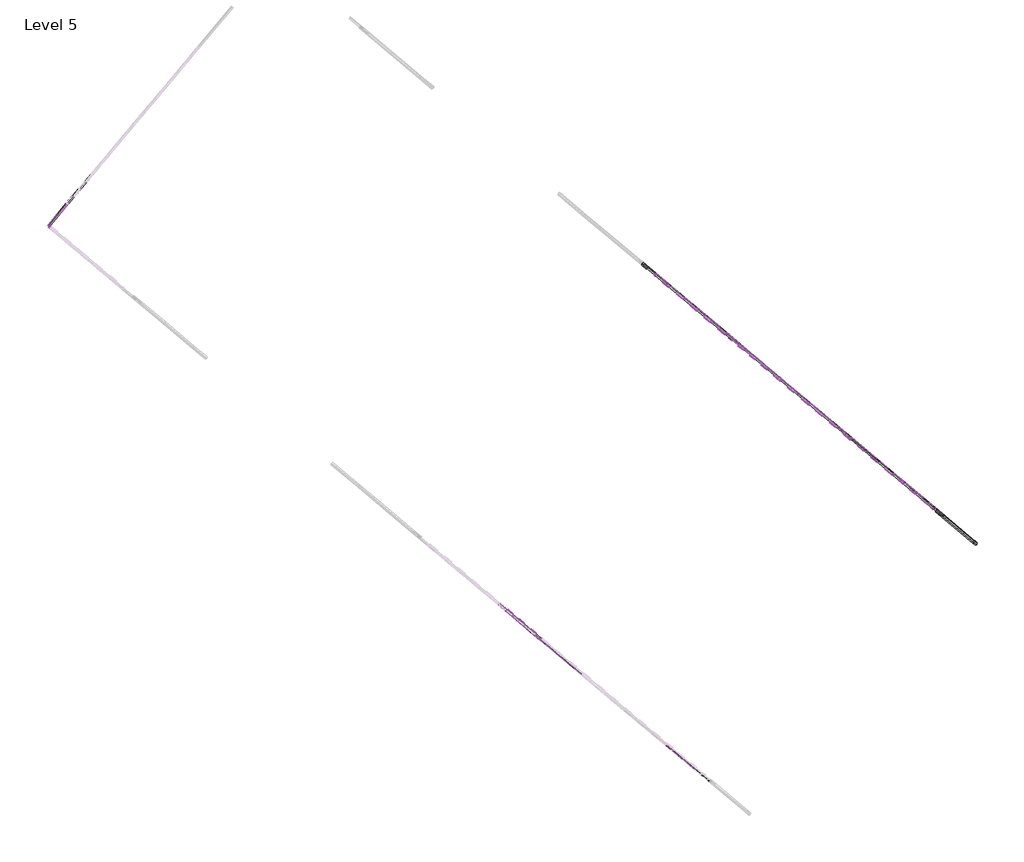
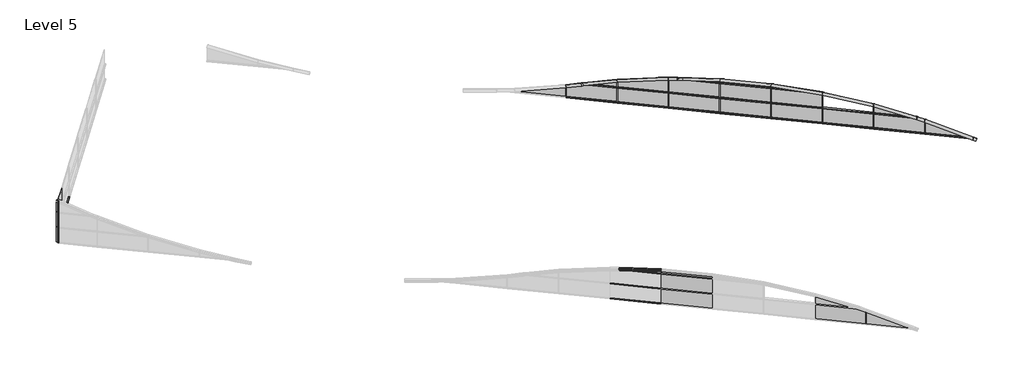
# One storey, part 2 of 3: 60 members, 27 plates.
"""IFC4 building model written with IfcOpenShell, lengths in millimetres."""

from ifc_helpers import new_model, si_unit, origin, place, context, project, spatial, transform, mapped, element, save
from components import member_e6b937b8, member_65f14fc3, member_8907424b, member_b6351594, member_852e76ec, member_9acdba3d, member_3f421149, member_b07f7d10, member_4cab8adf, member_eaba9652, member_7cbddb58, member_78034a26, member_ae053e04, member_72292d41, member_8004e742, member_7d476428, member_117cba67, member_080aa8fc, member_387caf8a, member_be89018c, member_87023f9a, member_5bba626a, member_0263207b, member_ba924269, member_bd770e4f, member_5f4ae004, member_d5e3f06a, member_1e27f70e, member_07dfde26, member_9b010553, member_fc3f467e, member_76928700, member_e705e369, member_2db08f33, system_panel_glazed_a2c5a472, system_panel_glazed_c349e88e, system_panel_glazed_45b6d7d5, system_panel_glazed_386e10ea, system_panel_glazed_c6ffd3cb, system_panel_glazed_a3844233, system_panel_glazed_9ee25dfe, system_panel_glazed_32f1f321, system_panel_glazed_c3850a69, system_panel_glazed_b0595651, system_panel_glazed_9634abb3, system_panel_glazed_b5c3a0a0, system_panel_glazed_e4423f37, system_panel_glazed_5a60ba6b, system_panel_glazed_16cee4e4, system_panel_glazed_997bd1a5, system_panel_glazed_f9ab01ed, system_panel_glazed_8e9806c1

model = new_model("IFC4")

# Units and contexts
model_context = context("Model", 3, world=origin())
ifc_project = project(units=[si_unit("LENGTHUNIT", "METRE", prefix="MILLI")], contexts=[model_context])

# Site, building, storey
site = spatial("IfcSite", under=ifc_project)
building = spatial("IfcBuilding", under=site)
storey = spatial("IfcBuildingStorey", under=building, Name="Level 5", Elevation=12192.0)

# Members
placement = place(None, origin())
member_shape = member_e6b937b8(model_context)
element("IfcMember", 1, ObjectType="Rectangular Mullion : 1.5\" x 2.5\" rectangular", at=placement, inside=storey, context=model_context, shape_type="MappedRepresentation", body=[
    mapped(member_shape, transform((-23592.0192741, 28385.3349072, 13601.1444177), x_axis=(0.76604444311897, -0.6427876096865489, 0.0), y_axis=(0.6427876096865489, 0.76604444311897, 0.0), z_axis=(0.0, 0.0, 1.0))),
])
element("IfcMember", 2, ObjectType="Rectangular Mullion : 1.5\" x 2.5\" rectangular", at=placement, inside=storey, context=model_context, shape_type="MappedRepresentation", body=[
    mapped(member_shape, transform((-21257.1158115, 26426.1182729, 13601.1444177), x_axis=(0.76604444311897, -0.6427876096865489, 0.0), y_axis=(0.6427876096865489, 0.76604444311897, 0.0), z_axis=(0.0, 0.0, 1.0))),
])
element("IfcMember", 3, ObjectType="Rectangular Mullion : 1.5\" x 2.5\" rectangular", at=placement, inside=storey, context=model_context, shape_type="MappedRepresentation", body=[
    mapped(member_shape, transform((-18922.2123489, 24466.9016385, 13601.1444177), x_axis=(0.76604444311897, -0.6427876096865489, 0.0), y_axis=(0.6427876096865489, 0.76604444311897, 0.0), z_axis=(0.0, 0.0, 1.0))),
])
element("IfcMember", 4, ObjectType="Rectangular Mullion : 1.5\" x 2.5\" rectangular", at=placement, inside=storey, context=model_context, shape_type="MappedRepresentation", body=[
    mapped(member_shape, transform((-16587.3088862, 22507.6850042, 13601.1444177), x_axis=(0.76604444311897, -0.6427876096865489, 0.0), y_axis=(0.6427876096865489, 0.76604444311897, 0.0), z_axis=(0.0, 0.0, 1.0))),
])
element("IfcMember", 5, ObjectType="Rectangular Mullion : 1.5\" x 2.5\" rectangular", at=placement, inside=storey, context=model_context, shape_type="MappedRepresentation", body=[
    mapped(member_shape, transform((-14252.4054236, 20548.4683699, 13601.1444177), x_axis=(0.76604444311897, -0.6427876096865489, 0.0), y_axis=(0.6427876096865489, 0.76604444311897, 0.0), z_axis=(0.0, 0.0, 1.0))),
])
element("IfcMember", 6, ObjectType="Rectangular Mullion : 1.5\" x 2.5\" rectangular", at=placement, inside=storey, context=model_context, shape_type="MappedRepresentation", body=[
    mapped(member_shape, transform((-11917.501961, 18589.2517356, 13601.1444177), x_axis=(0.76604444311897, -0.6427876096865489, 0.0), y_axis=(0.6427876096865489, 0.76604444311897, 0.0), z_axis=(0.0, 0.0, 1.0))),
])
element("IfcMember", 7, ObjectType="Rectangular Mullion : 1.5\" x 2.5\" rectangular", at=placement, inside=storey, context=model_context, shape_type="MappedRepresentation", body=[
    mapped(member_shape, transform((-18922.2123489, 24466.9016385, 14667.9444177), x_axis=(0.76604444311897, -0.6427876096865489, 0.0), y_axis=(0.6427876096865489, 0.76604444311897, 0.0), z_axis=(0.0, 0.0, 1.0))),
])
element("IfcMember", 8, ObjectType="Rectangular Mullion : 1.5\" x 2.5\" rectangular", at=placement, inside=storey, context=model_context, shape_type="MappedRepresentation", body=[
    mapped(member_shape, transform((-16587.3088862, 22507.6850042, 14667.9444177), x_axis=(0.76604444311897, -0.6427876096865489, 0.0), y_axis=(0.6427876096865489, 0.76604444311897, 0.0), z_axis=(0.0, 0.0, 1.0))),
])
element("IfcMember", 9, ObjectType="Rectangular Mullion : 1.5\" x 2.5\" rectangular", at=placement, inside=storey, context=model_context, shape_type="MappedRepresentation", body=[
    mapped(member_shape, transform((-14252.4054236, 20548.4683699, 14667.9444177), x_axis=(0.76604444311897, -0.6427876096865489, 0.0), y_axis=(0.6427876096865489, 0.76604444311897, 0.0), z_axis=(0.0, 0.0, 1.0))),
])
element("IfcMember", 10, ObjectType="Rectangular Mullion : 1.5\" x 2.5\" rectangular", at=placement, inside=storey, context=model_context, shape_type="MappedRepresentation", body=[
    mapped(member_shape, transform((-31611.2013321, 9344.7534314, 13601.1444177), x_axis=(-0.76604444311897, 0.6427876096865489, 0.0), y_axis=(-0.6427876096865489, -0.76604444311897, 0.0), z_axis=(0.0, 0.0, 1.0))),
])
element("IfcMember", 11, ObjectType="Rectangular Mullion : 1.5\" x 2.5\" rectangular", at=placement, inside=storey, context=model_context, shape_type="MappedRepresentation", body=[
    mapped(member_shape, transform((-31611.2013321, 9344.7534314, 14667.9444177), x_axis=(-0.76604444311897, 0.6427876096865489, 0.0), y_axis=(-0.6427876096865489, -0.76604444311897, 0.0), z_axis=(0.0, 0.0, 1.0))),
])
member_2_shape = member_65f14fc3(model_context)
element("IfcMember", 12, ObjectType="Rectangular Mullion : 1.5\" x 2.5\" rectangular", at=placement, inside=storey, context=model_context, shape_type="MappedRepresentation", body=[
    mapped(member_2_shape, transform((-25926.9227367, 30344.5515415, 13368.1818395), x_axis=(0.76604444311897, -0.6427876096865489, 0.0), y_axis=(0.6427876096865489, 0.76604444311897, 0.0), z_axis=(0.0, 0.0, 1.0))),
])
member_3_shape = member_8907424b(model_context)
element("IfcMember", 13, ObjectType="Rectangular Mullion : 1.5\" x 2.5\" rectangular", at=placement, inside=storey, context=model_context, shape_type="MappedRepresentation", body=[
    mapped(member_3_shape, transform((-21257.1158115, 26426.1182729, 14634.5989438), x_axis=(0.76604444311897, -0.6427876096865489, 0.0), y_axis=(0.6427876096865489, 0.76604444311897, 0.0), z_axis=(0.0, 0.0, 1.0))),
])
member_4_shape = member_b6351594(model_context)
element("IfcMember", 14, ObjectType="Rectangular Mullion : 1.5\" x 2.5\" rectangular", at=placement, inside=storey, context=model_context, shape_type="MappedRepresentation", body=[
    mapped(member_4_shape, transform((-16587.3088862, 22507.6850042, 14922.6780724), x_axis=(0.76604444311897, -0.6427876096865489, 0.0), y_axis=(0.6427876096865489, 0.76604444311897, 0.0), z_axis=(0.0, 0.0, 1.0))),
])
member_5_shape = member_852e76ec(model_context)
element("IfcMember", 15, ObjectType="Rectangular Mullion : 1.5\" x 2.5\" rectangular", at=placement, inside=storey, context=model_context, shape_type="MappedRepresentation", body=[
    mapped(member_5_shape, transform((-31611.2013321, 9344.7534314, 14900.6584928), x_axis=(-0.76604444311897, 0.6427876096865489, 0.0), y_axis=(-0.6427876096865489, -0.76604444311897, 0.0), z_axis=(0.0, 0.0, 1.0))),
])
member_6_shape = member_9acdba3d(model_context)
element("IfcMember", 16, ObjectType="Rectangular Mullion : 1.5\" x 2.5\" rectangular", at=placement, inside=storey, context=model_context, shape_type="MappedRepresentation", body=[
    mapped(member_6_shape, transform((-23592.0192741, 28385.3349072, 14119.29594), x_axis=(0.76604444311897, -0.6427876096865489, 0.0), y_axis=(0.6427876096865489, 0.76604444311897, 0.0), z_axis=(0.0, 0.0, 1.0))),
])
member_7_shape = member_3f421149(model_context)
element("IfcMember", 17, ObjectType="Rectangular Mullion : 1.5\" x 2.5\" rectangular", at=placement, inside=storey, context=model_context, shape_type="MappedRepresentation", body=[
    mapped(member_7_shape, transform((-18922.2123489, 24466.9016385, 14900.6585775), x_axis=(0.76604444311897, -0.6427876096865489, 0.0), y_axis=(0.6427876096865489, 0.76604444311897, 0.0), z_axis=(0.0, 0.0, 1.0))),
])
member_8_shape = member_b07f7d10(model_context)
element("IfcMember", 18, ObjectType="Rectangular Mullion : 1.5\" x 2.5\" rectangular", at=placement, inside=storey, context=model_context, shape_type="MappedRepresentation", body=[
    mapped(member_8_shape, transform((-11917.501961, 18589.2517356, 14231.5556367), x_axis=(0.76604444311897, -0.6427876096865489, 0.0), y_axis=(0.6427876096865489, 0.76604444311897, 0.0), z_axis=(0.0, 0.0, 1.0))),
])
member_9_shape = member_4cab8adf(model_context)
element("IfcMember", 19, ObjectType="Rectangular Mullion : 1.5\" x 2.5\" rectangular", at=placement, inside=storey, context=model_context, shape_type="MappedRepresentation", body=[
    mapped(member_9_shape, transform((-9582.5984984, 16630.0351012, 13504.6166294), x_axis=(0.76604444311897, -0.6427876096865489, 0.0), y_axis=(0.6427876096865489, 0.76604444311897, 0.0), z_axis=(0.0, 0.0, 1.0))),
])
member_10_shape = member_eaba9652(model_context)
element("IfcMember", 20, ObjectType="Rectangular Mullion : 2.5\" x 5\" rectangular", at=placement, inside=storey, context=model_context, shape_type="MappedRepresentation", body=[
    mapped(member_10_shape, transform((-25926.9227367, 30344.5515415, 12566.0944177), x_axis=(0.0, 0.0, 1.0), y_axis=(0.6427876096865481, 0.7660444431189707, 0.0), z_axis=(-0.7660444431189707, 0.6427876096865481, 0.0))),
])
element("IfcMember", 21, ObjectType="Rectangular Mullion : 2.5\" x 5\" rectangular", at=placement, inside=storey, context=model_context, shape_type="MappedRepresentation", body=[
    mapped(member_10_shape, transform((-23592.0192741, 28385.3349072, 12566.0944177), x_axis=(0.0, 0.0, 1.0), y_axis=(0.6427876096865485, 0.7660444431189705, 0.0), z_axis=(-0.7660444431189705, 0.6427876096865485, 0.0))),
])
element("IfcMember", 22, ObjectType="Rectangular Mullion : 2.5\" x 5\" rectangular", at=placement, inside=storey, context=model_context, shape_type="MappedRepresentation", body=[
    mapped(member_10_shape, transform((-21257.1158115, 26426.1182729, 12566.0944177), x_axis=(0.0, 0.0, 1.0), y_axis=(0.6427876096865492, 0.7660444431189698, 0.0), z_axis=(-0.7660444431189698, 0.6427876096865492, 0.0))),
])
element("IfcMember", 23, ObjectType="Rectangular Mullion : 2.5\" x 5\" rectangular", at=placement, inside=storey, context=model_context, shape_type="MappedRepresentation", body=[
    mapped(member_10_shape, transform((-18922.2123489, 24466.9016385, 12566.0944177), x_axis=(0.0, 0.0, 1.0), y_axis=(0.6427876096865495, 0.7660444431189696, 0.0), z_axis=(-0.7660444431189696, 0.6427876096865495, 0.0))),
])
element("IfcMember", 24, ObjectType="Rectangular Mullion : 2.5\" x 5\" rectangular", at=placement, inside=storey, context=model_context, shape_type="MappedRepresentation", body=[
    mapped(member_10_shape, transform((-16587.3088862, 22507.6850042, 12566.0944177), x_axis=(0.0, 0.0, 1.0), y_axis=(0.6427876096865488, 0.7660444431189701, 0.0), z_axis=(-0.7660444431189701, 0.6427876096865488, 0.0))),
])
element("IfcMember", 25, ObjectType="Rectangular Mullion : 2.5\" x 5\" rectangular", at=placement, inside=storey, context=model_context, shape_type="MappedRepresentation", body=[
    mapped(member_10_shape, transform((-14252.4054236, 20548.4683699, 12566.0944177), x_axis=(0.0, 0.0, 1.0), y_axis=(0.6427876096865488, 0.7660444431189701, 0.0), z_axis=(-0.7660444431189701, 0.6427876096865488, 0.0))),
])
element("IfcMember", 26, ObjectType="Rectangular Mullion : 2.5\" x 5\" rectangular", at=placement, inside=storey, context=model_context, shape_type="MappedRepresentation", body=[
    mapped(member_10_shape, transform((-11917.501961, 18589.2517356, 12566.0944177), x_axis=(0.0, 0.0, 1.0), y_axis=(0.642787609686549, 0.76604444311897, 0.0), z_axis=(-0.7660444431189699, 0.6427876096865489, 0.0))),
])
element("IfcMember", 27, ObjectType="Rectangular Mullion : 2.5\" x 5\" rectangular", at=placement, inside=storey, context=model_context, shape_type="MappedRepresentation", body=[
    mapped(member_10_shape, transform((-23592.0192741, 28385.3349072, 13632.8944177), x_axis=(0.0, 0.0, 1.0), y_axis=(0.642787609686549, 0.76604444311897, 0.0), z_axis=(-0.7660444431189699, 0.6427876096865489, 0.0))),
])
element("IfcMember", 28, ObjectType="Rectangular Mullion : 2.5\" x 5\" rectangular", at=placement, inside=storey, context=model_context, shape_type="MappedRepresentation", body=[
    mapped(member_10_shape, transform((-21257.1158115, 26426.1182729, 13632.8944177), x_axis=(0.0, 0.0, 1.0), y_axis=(0.6427876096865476, 0.7660444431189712, 0.0), z_axis=(-0.7660444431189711, 0.6427876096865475, 0.0))),
])
element("IfcMember", 29, ObjectType="Rectangular Mullion : 2.5\" x 5\" rectangular", at=placement, inside=storey, context=model_context, shape_type="MappedRepresentation", body=[
    mapped(member_10_shape, transform((-18922.2123489, 24466.9016385, 13632.8944177), x_axis=(0.0, 0.0, 1.0), y_axis=(0.6427876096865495, 0.7660444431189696, 0.0), z_axis=(-0.7660444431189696, 0.6427876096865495, 0.0))),
])
element("IfcMember", 30, ObjectType="Rectangular Mullion : 2.5\" x 5\" rectangular", at=placement, inside=storey, context=model_context, shape_type="MappedRepresentation", body=[
    mapped(member_10_shape, transform((-16587.3088862, 22507.6850042, 13632.8944177), x_axis=(0.0, 0.0, 1.0), y_axis=(0.6427876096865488, 0.7660444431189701, 0.0), z_axis=(-0.7660444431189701, 0.6427876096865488, 0.0))),
])
element("IfcMember", 31, ObjectType="Rectangular Mullion : 2.5\" x 5\" rectangular", at=placement, inside=storey, context=model_context, shape_type="MappedRepresentation", body=[
    mapped(member_10_shape, transform((-14252.4054236, 20548.4683699, 13632.8944177), x_axis=(0.0, 0.0, 1.0), y_axis=(0.6427876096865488, 0.7660444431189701, 0.0), z_axis=(-0.7660444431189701, 0.6427876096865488, 0.0))),
])
element("IfcMember", 32, ObjectType="Rectangular Mullion : 2.5\" x 5\" rectangular", at=placement, inside=storey, context=model_context, shape_type="MappedRepresentation", body=[
    mapped(member_10_shape, transform((-18922.2123489, 24466.9016385, 14699.6944177), x_axis=(0.0, 0.0, 1.0), y_axis=(0.6427876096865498, 0.7660444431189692, 0.0), z_axis=(-0.7660444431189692, 0.6427876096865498, 0.0))),
])
element("IfcMember", 33, ObjectType="Rectangular Mullion : 2.5\" x 5\" rectangular", at=placement, inside=storey, context=model_context, shape_type="MappedRepresentation", body=[
    mapped(member_10_shape, transform((-31611.2013321, 9344.7534314, 12566.0944177), x_axis=(0.0, 0.0, 1.0), y_axis=(-0.6427876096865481, -0.7660444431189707, 0.0), z_axis=(0.7660444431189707, -0.6427876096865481, 0.0))),
])
element("IfcMember", 34, ObjectType="Rectangular Mullion : 2.5\" x 5\" rectangular", at=placement, inside=storey, context=model_context, shape_type="MappedRepresentation", body=[
    mapped(member_10_shape, transform((-31611.2013321, 9344.7534314, 13632.8944177), x_axis=(0.0, 0.0, 1.0), y_axis=(-0.6427876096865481, -0.7660444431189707, 0.0), z_axis=(0.7660444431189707, -0.6427876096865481, 0.0))),
])
member_11_shape = member_7cbddb58(model_context)
element("IfcMember", 35, ObjectType="Rectangular Mullion : 2.5\" x 5\" rectangular", at=placement, inside=storey, context=model_context, shape_type="MappedRepresentation", body=[
    mapped(member_11_shape, transform((-58047.6752037, 33669.3461699, 13186.6474171), x_axis=(0.0, 0.0, 1.0), y_axis=(-0.766044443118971, 0.6427876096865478, 0.0), z_axis=(-0.6427876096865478, -0.766044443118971, 0.0))),
])
member_12_shape = member_78034a26(model_context)
element("IfcMember", 36, ObjectType="Rectangular Mullion : 2.5\" x 5\" rectangular", at=placement, inside=storey, context=model_context, shape_type="MappedRepresentation", body=[
    mapped(member_12_shape, transform((-9582.5984984, 16630.0351012, 12566.0944177), x_axis=(0.0, 0.0, 1.0), y_axis=(0.6427876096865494, 0.7660444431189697, 0.0), z_axis=(-0.7660444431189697, 0.6427876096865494, 0.0))),
])
member_13_shape = member_ae053e04(model_context)
element("IfcMember", 37, ObjectType="Rectangular Mullion : 2.5\" x 5\" rectangular", at=placement, inside=storey, context=model_context, shape_type="MappedRepresentation", body=[
    mapped(member_13_shape, transform((-25147.0689747, 29690.1765374, 13632.8944177), x_axis=(0.0, 0.0, 1.0), y_axis=(0.642787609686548, 0.7660444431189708, 0.0), z_axis=(-0.7660444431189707, 0.6427876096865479, 0.0))),
])
member_14_shape = member_72292d41(model_context)
element("IfcMember", 38, ObjectType="Rectangular Mullion : 2.5\" x 5\" rectangular", at=placement, inside=storey, context=model_context, shape_type="MappedRepresentation", body=[
    mapped(member_14_shape, transform((-11917.501961, 18589.2517356, 13632.8944177), x_axis=(0.0, 0.0, 1.0), y_axis=(0.6427876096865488, 0.7660444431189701, 0.0), z_axis=(-0.76604444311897, 0.6427876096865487, 0.0))),
])
member_15_shape = member_8004e742(model_context)
element("IfcMember", 39, ObjectType="Rectangular Mullion : 2.5\" x 5\" rectangular", at=placement, inside=storey, context=model_context, shape_type="MappedRepresentation", body=[
    mapped(member_15_shape, transform((-20843.4151703, 26078.9822174, 14699.6944177), x_axis=(0.0, 0.0, 1.0), y_axis=(0.642787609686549, 0.76604444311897, 0.0), z_axis=(-0.76604444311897, 0.642787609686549, 0.0))),
])
member_16_shape = member_7d476428(model_context)
element("IfcMember", 40, ObjectType="Rectangular Mullion : 2.5\" x 5\" rectangular", at=placement, inside=storey, context=model_context, shape_type="MappedRepresentation", body=[
    mapped(member_16_shape, transform((-31611.2013321, 9344.7534314, 14699.6944177), x_axis=(0.0, 0.0, 1.0), y_axis=(-0.6427876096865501, -0.766044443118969, 0.0), z_axis=(0.766044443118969, -0.6427876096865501, 0.0))),
])
member_17_shape = member_117cba67(model_context)
element("IfcMember", 41, ObjectType="Rectangular Mullion : 2.5\" x 5\" rectangular", at=placement, inside=storey, context=model_context, shape_type="MappedRepresentation", body=[
    mapped(member_17_shape, transform((-59041.0592628, 32485.4771486, 13186.6474171), x_axis=(0.0, 0.0, 1.0), y_axis=(-0.766044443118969, 0.6427876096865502, 0.0), z_axis=(-0.6427876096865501, -0.7660444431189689, 0.0))),
])
element("IfcMember", 42, ObjectType="Rectangular Mullion : 2.5\" x 5\" rectangular", at=placement, inside=storey, context=model_context, shape_type="MappedRepresentation", body=[
    mapped(member_17_shape, transform((-59041.0592628, 32485.4771486, 14253.4474171), x_axis=(0.0, 0.0, 1.0), y_axis=(-0.766044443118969, 0.6427876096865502, 0.0), z_axis=(-0.6427876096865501, -0.7660444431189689, 0.0))),
])
member_18_shape = member_080aa8fc(model_context)
element("IfcMember", 43, ObjectType="Rectangular Mullion : 2.5\" x 5\" rectangular", at=placement, inside=storey, context=model_context, shape_type="MappedRepresentation", body=[
    mapped(member_18_shape, transform((-16587.3088862, 22507.6850042, 14699.6944177), x_axis=(0.0, 0.0, 1.0), y_axis=(0.6427876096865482, 0.7660444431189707, 0.0), z_axis=(-0.7660444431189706, 0.6427876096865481, 0.0))),
])
member_19_shape = member_387caf8a(model_context)
element("IfcMember", 44, ObjectType="V Corner Mullion : 5\" V Corner", at=placement, inside=storey, context=model_context, shape_type="MappedRepresentation", body=[
    mapped(member_19_shape, transform((-59102.2847827, 32412.5114154, 13632.8944177), x_axis=(-0.76604444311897, 0.6427876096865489, 0.0), y_axis=(-0.6427876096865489, -0.76604444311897, 0.0), z_axis=(0.0, 0.0, 1.0))),
])
element("IfcMember", 45, ObjectType="V Corner Mullion : 5\" V Corner", at=placement, inside=storey, context=model_context, shape_type="MappedRepresentation", body=[
    mapped(member_19_shape, transform((-59102.2847827, 32412.5114154, 14699.6944177), x_axis=(-0.76604444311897, 0.6427876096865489, 0.0), y_axis=(-0.6427876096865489, -0.76604444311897, 0.0), z_axis=(0.0, 0.0, 1.0))),
])
member_20_shape = member_be89018c(model_context)
element("IfcMember", 46, ObjectType="V Corner Mullion : 5\" V Corner", at=placement, inside=storey, context=model_context, shape_type="MappedRepresentation", body=[
    mapped(member_20_shape, transform((-25926.9227367, 30344.5515415, 13368.1818395), x_axis=(-0.19212510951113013, 0.1612121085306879, 0.9680385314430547), y_axis=(0.6427876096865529, 0.7660444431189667, 0.0), z_axis=(-0.7415605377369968, 0.6222431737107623, -0.25080151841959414))),
])
member_21_shape = member_87023f9a(model_context)
element("IfcMember", 47, ObjectType="V Corner Mullion : 5\" V Corner", at=placement, inside=storey, context=model_context, shape_type="MappedRepresentation", body=[
    mapped(member_21_shape, transform((-25214.7912194, 29747.002248, 13609.0302353), x_axis=(-0.1996410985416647, 0.16751877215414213, 0.9654433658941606), y_axis=(0.6427876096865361, 0.7660444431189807, 0.0), z_axis=(-0.7395725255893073, 0.6205750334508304, -0.26061294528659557))),
])
member_22_shape = member_5bba626a(model_context)
element("IfcMember", 48, ObjectType="V Corner Mullion : 5\" V Corner", at=placement, inside=storey, context=model_context, shape_type="MappedRepresentation", body=[
    mapped(member_22_shape, transform((-23592.0192741, 28385.3349072, 14119.29594), x_axis=(-0.12769743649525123, 0.10715087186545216, 0.986008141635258), y_axis=(0.6427876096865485, 0.7660444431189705, 0.0), z_axis=(-0.755326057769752, 0.6337938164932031, -0.16669716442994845))),
])
member_23_shape = member_0263207b(model_context)
element("IfcMember", 49, ObjectType="V Corner Mullion : 5\" V Corner", at=placement, inside=storey, context=model_context, shape_type="MappedRepresentation", body=[
    mapped(member_23_shape, transform((-21257.1158115, 26426.1182729, 14634.5989438), x_axis=(-0.0916727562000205, 0.07692257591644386, 0.9928136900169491), y_axis=(0.6427876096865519, 0.7660444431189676, 0.0), z_axis=(-0.7605394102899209, 0.6381683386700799, -0.11967028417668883))),
])
member_24_shape = member_ba924269(model_context)
element("IfcMember", 50, ObjectType="V Corner Mullion : 5\" V Corner", at=placement, inside=storey, context=model_context, shape_type="MappedRepresentation", body=[
    mapped(member_24_shape, transform((-18922.2123489, 24466.9016385, 14900.6585775), x_axis=(-0.00553394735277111, 0.004643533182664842, 0.9999739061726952), y_axis=(0.6427876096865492, 0.7660444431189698, 0.0), z_axis=(-0.7660244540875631, 0.6427708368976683, -0.007224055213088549))),
])
member_25_shape = member_bd770e4f(model_context)
element("IfcMember", 51, ObjectType="V Corner Mullion : 5\" V Corner", at=placement, inside=storey, context=model_context, shape_type="MappedRepresentation", body=[
    mapped(member_25_shape, transform((-11917.501961, 18589.2517356, 14231.5556367), x_axis=(0.1730070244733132, -0.14517013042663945, 0.9741633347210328), y_axis=(0.6427876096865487, 0.7660444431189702, 0.0), z_axis=(-0.7462524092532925, 0.6261801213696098, 0.22584463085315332))),
])
member_26_shape = member_5f4ae004(model_context)
element("IfcMember", 52, ObjectType="V Corner Mullion : 5\" V Corner", at=placement, inside=storey, context=model_context, shape_type="MappedRepresentation", body=[
    mapped(member_26_shape, transform((-9582.5984984, 16630.0351012, 13504.6166294), x_axis=(0.23713141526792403, -0.19897688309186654, 0.9508821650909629), y_axis=(0.642787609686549, 0.7660444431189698, 0.0), z_axis=(-0.728417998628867, 0.6112152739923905, 0.30955307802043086))),
])
member_27_shape = member_d5e3f06a(model_context)
element("IfcMember", 53, ObjectType="V Corner Mullion : 5\" V Corner", at=placement, inside=storey, context=model_context, shape_type="MappedRepresentation", body=[
    mapped(member_27_shape, transform((-31611.2013321, 9344.7534314, 14900.6584928), x_axis=(-0.06118761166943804, 0.0513425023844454, 0.9968049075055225), y_axis=(-0.6427876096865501, -0.766044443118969, 0.0), z_axis=(0.7635968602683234, -0.6407338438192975, 0.07987475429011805))),
])
member_28_shape = member_1e27f70e(model_context)
element("IfcMember", 54, ObjectType="V Corner Mullion : 5\" V Corner", at=placement, inside=storey, context=model_context, shape_type="MappedRepresentation", body=[
    mapped(member_28_shape, transform((-7374.1356541, 14776.9147432, 12566.0944177), x_axis=(0.2674615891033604, -0.2244269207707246, 0.9370682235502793), y_axis=(0.6427876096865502, 0.7660444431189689, 0.0), z_axis=(-0.717835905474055, 0.6023358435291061, 0.349146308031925))),
])
member_29_shape = member_07dfde26(model_context)
element("IfcMember", 55, ObjectType="V Corner Mullion : 5\" V Corner", at=placement, inside=storey, context=model_context, shape_type="MappedRepresentation", body=[
    mapped(member_29_shape, transform((-25147.0689747, 29690.1765374, 13632.8944177), x_axis=(-0.1784992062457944, 0.14977861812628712, 0.9724733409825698), y_axis=(0.6427876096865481, 0.7660444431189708, 0.0), z_axis=(-0.7449577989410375, 0.6250938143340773, -0.23301416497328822))),
])
member_30_shape = member_9b010553(model_context)
element("IfcMember", 56, ObjectType="V Corner Mullion : 5\" V Corner", at=placement, inside=storey, context=model_context, shape_type="MappedRepresentation", body=[
    mapped(member_30_shape, transform((-9939.3616114, 16929.3948978, 13632.8944177), x_axis=(0.20342308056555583, -0.17069223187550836, 0.9640970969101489), y_axis=(0.6427876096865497, 0.7660444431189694, 0.0), z_axis=(-0.73854122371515, 0.6197096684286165, 0.26554997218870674))),
])
member_31_shape = member_fc3f467e(model_context)
element("IfcMember", 57, ObjectType="V Corner Mullion : 5\" V Corner", at=placement, inside=storey, context=model_context, shape_type="MappedRepresentation", body=[
    mapped(member_31_shape, transform((-20843.4151703, 26078.9822174, 14699.6944177), x_axis=(-0.061187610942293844, 0.05134250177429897, 0.9968049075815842), y_axis=(0.6427876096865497, 0.7660444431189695, 0.0), z_axis=(-0.7635968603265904, 0.6407338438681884, -0.0798747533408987))),
])
member_32_shape = member_76928700(model_context)
element("IfcMember", 58, ObjectType="V Corner Mullion : 5\" V Corner", at=placement, inside=storey, context=model_context, shape_type="MappedRepresentation", body=[
    mapped(member_32_shape, transform((-59102.2847827, 32412.5114154, 15522.824296), x_axis=(-0.76604444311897, 0.6427876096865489, 0.0), y_axis=(-0.6427876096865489, -0.76604444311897, 0.0), z_axis=(0.0, 0.0, 1.0))),
])
member_33_shape = member_e705e369(model_context)
element("IfcMember", 59, ObjectType="V Corner Mullion : 5\" V Corner", at=placement, inside=storey, context=model_context, shape_type="MappedRepresentation", body=[
    mapped(member_33_shape, transform((-16587.3088862, 22507.6850042, 14922.6780724), x_axis=(0.05554657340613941, -0.04660910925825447, 0.9973676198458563), y_axis=(0.6427876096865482, 0.7660444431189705, 0.0), z_axis=(-0.7640279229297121, 0.6410955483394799, 0.07251090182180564))),
])
member_34_shape = member_2db08f33(model_context)
element("IfcMember", 60, ObjectType="V Corner Mullion : 5\" V Corner", at=placement, inside=storey, context=model_context, shape_type="MappedRepresentation", body=[
    mapped(member_34_shape, transform((-14243.0159711, 20540.5896837, 14699.6944177), x_axis=(0.11675088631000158, -0.09796562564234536, 0.988317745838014), y_axis=(0.6427876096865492, 0.7660444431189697, 0.0), z_axis=(-0.7570953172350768, 0.6352784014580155, 0.1524074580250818))),
])

# Plates
system_panel_glazed_shape = system_panel_glazed_a2c5a472(model_context)
element("IfcPlate", 61, ObjectType="System Panel : Glazed", at=placement, inside=storey, context=model_context, shape_type="MappedRepresentation", body=[
    mapped(system_panel_glazed_shape, transform((-30443.7496008, 8365.1451142, 12597.8444177), x_axis=(-0.76604444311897, 0.6427876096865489, 0.0), y_axis=(-0.6427876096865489, -0.76604444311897, 0.0), z_axis=(0.0, 0.0, 1.0))),
])
element("IfcPlate", 62, ObjectType="System Panel : Glazed", at=placement, inside=storey, context=model_context, shape_type="MappedRepresentation", body=[
    mapped(system_panel_glazed_shape, transform((-22424.5675428, 27405.72659, 12597.8444177), x_axis=(0.76604444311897, -0.6427876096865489, 0.0), y_axis=(0.6427876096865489, 0.76604444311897, 0.0), z_axis=(0.0, 0.0, 1.0))),
])
element("IfcPlate", 63, ObjectType="System Panel : Glazed", at=placement, inside=storey, context=model_context, shape_type="MappedRepresentation", body=[
    mapped(system_panel_glazed_shape, transform((-20089.6640802, 25446.5099557, 12597.8444177), x_axis=(0.76604444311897, -0.6427876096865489, 0.0), y_axis=(0.6427876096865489, 0.76604444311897, 0.0), z_axis=(0.0, 0.0, 1.0))),
])
element("IfcPlate", 64, ObjectType="System Panel : Glazed", at=placement, inside=storey, context=model_context, shape_type="MappedRepresentation", body=[
    mapped(system_panel_glazed_shape, transform((-30443.7496008, 8365.1451142, 13664.6444177), x_axis=(-0.76604444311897, 0.6427876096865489, 0.0), y_axis=(-0.6427876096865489, -0.76604444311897, 0.0), z_axis=(0.0, 0.0, 1.0))),
])
element("IfcPlate", 65, ObjectType="System Panel : Glazed", at=placement, inside=storey, context=model_context, shape_type="MappedRepresentation", body=[
    mapped(system_panel_glazed_shape, transform((-17754.7606176, 23487.2933214, 12597.8444177), x_axis=(0.76604444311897, -0.6427876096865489, 0.0), y_axis=(0.6427876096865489, 0.76604444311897, 0.0), z_axis=(0.0, 0.0, 1.0))),
])
element("IfcPlate", 66, ObjectType="System Panel : Glazed", at=placement, inside=storey, context=model_context, shape_type="MappedRepresentation", body=[
    mapped(system_panel_glazed_shape, transform((-15419.8571549, 21528.0766871, 12597.8444177), x_axis=(0.76604444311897, -0.6427876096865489, 0.0), y_axis=(0.6427876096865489, 0.76604444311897, 0.0), z_axis=(0.0, 0.0, 1.0))),
])
element("IfcPlate", 67, ObjectType="System Panel : Glazed", at=placement, inside=storey, context=model_context, shape_type="MappedRepresentation", body=[
    mapped(system_panel_glazed_shape, transform((-13084.9536923, 19568.8600527, 12597.8444177), x_axis=(0.76604444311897, -0.6427876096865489, 0.0), y_axis=(0.6427876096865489, 0.76604444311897, 0.0), z_axis=(0.0, 0.0, 1.0))),
])
element("IfcPlate", 68, ObjectType="System Panel : Glazed", at=placement, inside=storey, context=model_context, shape_type="MappedRepresentation", body=[
    mapped(system_panel_glazed_shape, transform((-17754.7606176, 23487.2933214, 13664.6444177), x_axis=(0.76604444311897, -0.6427876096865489, 0.0), y_axis=(0.6427876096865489, 0.76604444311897, 0.0), z_axis=(0.0, 0.0, 1.0))),
])
element("IfcPlate", 69, ObjectType="System Panel : Glazed", at=placement, inside=storey, context=model_context, shape_type="MappedRepresentation", body=[
    mapped(system_panel_glazed_shape, transform((-15419.8571549, 21528.0766871, 13664.6444177), x_axis=(0.76604444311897, -0.6427876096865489, 0.0), y_axis=(0.6427876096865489, 0.76604444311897, 0.0), z_axis=(0.0, 0.0, 1.0))),
])
system_panel_glazed_2_shape = system_panel_glazed_c349e88e(model_context)
element("IfcPlate", 70, ObjectType="System Panel : Glazed", at=placement, inside=storey, context=model_context, shape_type="MappedRepresentation", body=[
    mapped(system_panel_glazed_2_shape, transform((-58550.4897853, 33070.1150859, 13218.3974171), x_axis=(0.6427876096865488, 0.7660444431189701, 0.0), y_axis=(-0.7660444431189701, 0.6427876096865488, 0.0), z_axis=(0.0, 0.0, 1.0))),
])
element("IfcPlate", 71, ObjectType="System Panel : Glazed", at=placement, inside=storey, context=model_context, shape_type="MappedRepresentation", body=[
    mapped(system_panel_glazed_2_shape, transform((-58550.4897853, 33070.1150859, 14285.1974171), x_axis=(0.6427876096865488, 0.7660444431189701, 0.0), y_axis=(-0.7660444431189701, 0.6427876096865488, 0.0), z_axis=(0.0, 0.0, 1.0))),
])
system_panel_glazed_3_shape = system_panel_glazed_45b6d7d5(model_context)
element("IfcPlate", 72, ObjectType="System Panel : Glazed", at=placement, inside=storey, context=model_context, shape_type="MappedRepresentation", body=[
    mapped(system_panel_glazed_3_shape, transform((-23439.0392129, 2487.4952112, 12597.8444177), x_axis=(-0.76604444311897, 0.6427876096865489, 0.0), y_axis=(-0.6427876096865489, -0.76604444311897, 0.0), z_axis=(0.0, 0.0, 1.0))),
])
system_panel_glazed_4_shape = system_panel_glazed_386e10ea(model_context)
element("IfcPlate", 73, ObjectType="System Panel : Glazed", at=placement, inside=storey, context=model_context, shape_type="MappedRepresentation", body=[
    mapped(system_panel_glazed_4_shape, transform((-27094.3744681, 31324.1598587, 12597.8444177), x_axis=(0.76604444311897, -0.6427876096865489, 0.0), y_axis=(0.6427876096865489, 0.76604444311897, 0.0), z_axis=(0.0, 0.0, 1.0))),
])
system_panel_glazed_5_shape = system_panel_glazed_c6ffd3cb(model_context)
element("IfcPlate", 74, ObjectType="System Panel : Glazed", at=placement, inside=storey, context=model_context, shape_type="MappedRepresentation", body=[
    mapped(system_panel_glazed_5_shape, transform((-24759.4710054, 29364.9432244, 12597.8444177), x_axis=(0.76604444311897, -0.6427876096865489, 0.0), y_axis=(0.6427876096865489, 0.76604444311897, 0.0), z_axis=(0.0, 0.0, 1.0))),
])
system_panel_glazed_6_shape = system_panel_glazed_a3844233(model_context)
element("IfcPlate", 75, ObjectType="System Panel : Glazed", at=placement, inside=storey, context=model_context, shape_type="MappedRepresentation", body=[
    mapped(system_panel_glazed_6_shape, transform((-30443.7496008, 8365.1451142, 14731.4444177), x_axis=(-0.76604444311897, 0.6427876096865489, 0.0), y_axis=(-0.6427876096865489, -0.76604444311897, 0.0), z_axis=(0.0, 0.0, 1.0))),
])
system_panel_glazed_7_shape = system_panel_glazed_9ee25dfe(model_context)
element("IfcPlate", 76, ObjectType="System Panel : Glazed", at=placement, inside=storey, context=model_context, shape_type="MappedRepresentation", body=[
    mapped(system_panel_glazed_7_shape, transform((-8598.1618277, 15803.9946539, 12597.8444177), x_axis=(0.76604444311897, -0.6427876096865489, 0.0), y_axis=(0.6427876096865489, 0.76604444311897, 0.0), z_axis=(0.0, 0.0, 1.0))),
])
system_panel_glazed_8_shape = system_panel_glazed_32f1f321(model_context)
element("IfcPlate", 77, ObjectType="System Panel : Glazed", at=placement, inside=storey, context=model_context, shape_type="MappedRepresentation", body=[
    mapped(system_panel_glazed_8_shape, transform((-22424.5675428, 27405.72659, 13664.6444177), x_axis=(0.76604444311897, -0.6427876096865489, 0.0), y_axis=(0.6427876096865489, 0.76604444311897, 0.0), z_axis=(0.0, 0.0, 1.0))),
])
system_panel_glazed_9_shape = system_panel_glazed_c3850a69(model_context)
element("IfcPlate", 78, ObjectType="System Panel : Glazed", at=placement, inside=storey, context=model_context, shape_type="MappedRepresentation", body=[
    mapped(system_panel_glazed_9_shape, transform((-20089.6640802, 25446.5099557, 13664.6444177), x_axis=(0.76604444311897, -0.6427876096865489, 0.0), y_axis=(0.6427876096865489, 0.76604444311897, 0.0), z_axis=(0.0, 0.0, 1.0))),
])
system_panel_glazed_10_shape = system_panel_glazed_b0595651(model_context)
element("IfcPlate", 79, ObjectType="System Panel : Glazed", at=placement, inside=storey, context=model_context, shape_type="MappedRepresentation", body=[
    mapped(system_panel_glazed_10_shape, transform((-11096.586061, 17900.4215067, 13664.6444177), x_axis=(0.76604444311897, -0.6427876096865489, 0.0), y_axis=(0.6427876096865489, 0.76604444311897, 0.0), z_axis=(0.0, 0.0, 1.0))),
])
system_panel_glazed_11_shape = system_panel_glazed_9634abb3(model_context)
element("IfcPlate", 80, ObjectType="System Panel : Glazed", at=placement, inside=storey, context=model_context, shape_type="MappedRepresentation", body=[
    mapped(system_panel_glazed_11_shape, transform((-17754.7606176, 23487.2933214, 14731.4444177), x_axis=(0.76604444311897, -0.6427876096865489, 0.0), y_axis=(0.6427876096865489, 0.76604444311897, 0.0), z_axis=(0.0, 0.0, 1.0))),
])
system_panel_glazed_12_shape = system_panel_glazed_b5c3a0a0(model_context)
element("IfcPlate", 81, ObjectType="System Panel : Glazed", at=placement, inside=storey, context=model_context, shape_type="MappedRepresentation", body=[
    mapped(system_panel_glazed_12_shape, transform((-15955.6089499, 21977.6258206, 14731.4444177), x_axis=(0.76604444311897, -0.6427876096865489, 0.0), y_axis=(0.6427876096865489, 0.76604444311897, 0.0), z_axis=(0.0, 0.0, 1.0))),
])
system_panel_glazed_13_shape = system_panel_glazed_e4423f37(model_context)
element("IfcPlate", 82, ObjectType="System Panel : Glazed", at=placement, inside=storey, context=model_context, shape_type="MappedRepresentation", body=[
    mapped(system_panel_glazed_13_shape, transform((-21287.1508706, 681.8464969, 12597.8444177), x_axis=(-0.76604444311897, 0.6427876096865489, 0.0), y_axis=(-0.6427876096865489, -0.76604444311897, 0.0), z_axis=(0.0, 0.0, 1.0))),
])
system_panel_glazed_14_shape = system_panel_glazed_5a60ba6b(model_context)
element("IfcPlate", 83, ObjectType="System Panel : Glazed", at=placement, inside=storey, context=model_context, shape_type="MappedRepresentation", body=[
    mapped(system_panel_glazed_14_shape, transform((-23785.5749968, 2778.2732596, 13664.6444177), x_axis=(-0.76604444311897, 0.6427876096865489, 0.0), y_axis=(-0.6427876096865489, -0.76604444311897, 0.0), z_axis=(0.0, 0.0, 1.0))),
])
system_panel_glazed_15_shape = system_panel_glazed_16cee4e4(model_context)
element("IfcPlate", 84, ObjectType="System Panel : Glazed", at=placement, inside=storey, context=model_context, shape_type="MappedRepresentation", body=[
    mapped(system_panel_glazed_15_shape, transform((-10750.0502297, 17609.6434184, 12597.8444177), x_axis=(0.76604444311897, -0.6427876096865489, 0.0), y_axis=(0.6427876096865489, 0.76604444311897, 0.0), z_axis=(0.0, 0.0, 1.0))),
])
system_panel_glazed_16_shape = system_panel_glazed_997bd1a5(model_context)
element("IfcPlate", 85, ObjectType="System Panel : Glazed", at=placement, inside=storey, context=model_context, shape_type="MappedRepresentation", body=[
    mapped(system_panel_glazed_16_shape, transform((-24206.8764378, 28901.2613265, 13664.6444177), x_axis=(0.76604444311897, -0.6427876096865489, 0.0), y_axis=(0.6427876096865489, 0.76604444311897, 0.0), z_axis=(0.0, 0.0, 1.0))),
])
system_panel_glazed_17_shape = system_panel_glazed_f9ab01ed(model_context)
element("IfcPlate", 86, ObjectType="System Panel : Glazed", at=placement, inside=storey, context=model_context, shape_type="MappedRepresentation", body=[
    mapped(system_panel_glazed_17_shape, transform((-19390.5785844, 24859.9075741, 14731.4444177), x_axis=(0.76604444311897, -0.6427876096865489, 0.0), y_axis=(0.6427876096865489, 0.76604444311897, 0.0), z_axis=(0.0, 0.0, 1.0))),
])
system_panel_glazed_18_shape = system_panel_glazed_8e9806c1(model_context)
element("IfcPlate", 87, ObjectType="System Panel : Glazed", at=placement, inside=storey, context=model_context, shape_type="MappedRepresentation", body=[
    mapped(system_panel_glazed_18_shape, transform((-14247.7106973, 20544.5290268, 14699.6944177), x_axis=(0.76604444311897, -0.6427876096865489, 0.0), y_axis=(0.6427876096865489, 0.76604444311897, 0.0), z_axis=(0.0, 0.0, 1.0))),
])

save(model, "model.ifc")
